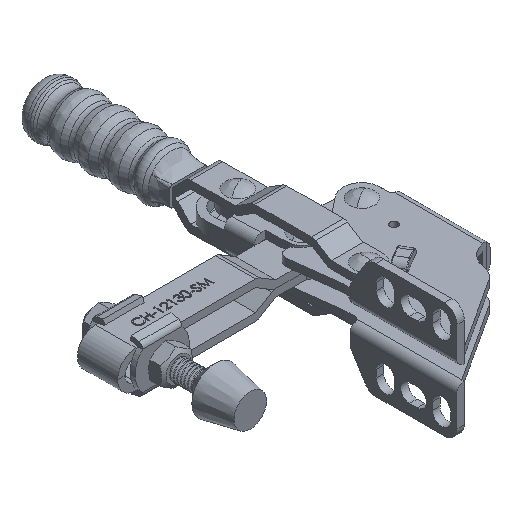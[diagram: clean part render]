
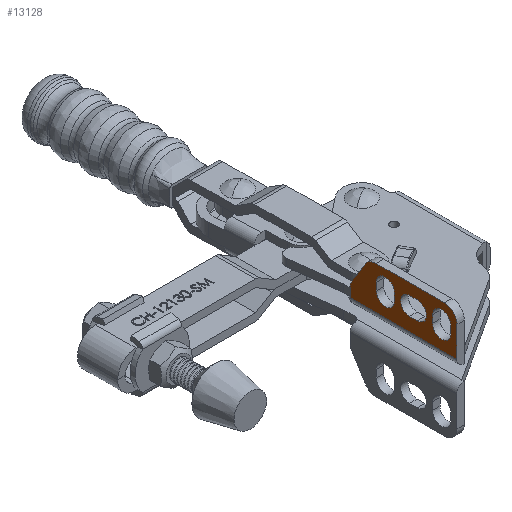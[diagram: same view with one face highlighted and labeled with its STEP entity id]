
A CAD part, isometric view. The second image highlights one B-rep face of the part: STEP entity #13128.
In plain terms, the highlighted planar face has unit normal (-1, 0, 0).
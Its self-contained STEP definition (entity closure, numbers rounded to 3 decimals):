
#910=FACE_BOUND('',#2123,.T.);
#911=FACE_BOUND('',#2124,.T.);
#912=FACE_BOUND('',#2125,.T.);
#1020=PLANE('',#14204);
#1373=FACE_OUTER_BOUND('',#2122,.T.);
#2122=EDGE_LOOP('',(#9324,#9325,#9326,#9327,#9328,#9329,#9330,#9331));
#2123=EDGE_LOOP('',(#9332,#9333,#9334,#9335));
#2124=EDGE_LOOP('',(#9336,#9337,#9338,#9339));
#2125=EDGE_LOOP('',(#9340,#9341,#9342,#9343));
#2986=LINE('',#18535,#4106);
#3019=LINE('',#18623,#4139);
#3021=LINE('',#18626,#4141);
#3022=LINE('',#18630,#4142);
#3023=LINE('',#18634,#4143);
#3024=LINE('',#18638,#4144);
#3025=LINE('',#18642,#4145);
#3026=LINE('',#18645,#4146);
#3027=LINE('',#18648,#4147);
#3028=LINE('',#18650,#4148);
#3029=LINE('',#18652,#4149);
#4106=VECTOR('',#15439,1000.);
#4139=VECTOR('',#15520,1000.);
#4141=VECTOR('',#15524,1000.);
#4142=VECTOR('',#15527,1000.);
#4143=VECTOR('',#15530,1000.);
#4144=VECTOR('',#15533,1000.);
#4145=VECTOR('',#15536,1000.);
#4146=VECTOR('',#15539,1000.);
#4147=VECTOR('',#15542,1000.);
#4148=VECTOR('',#15543,1000.);
#4149=VECTOR('',#15544,1000.);
#5113=CIRCLE('',#14093,3.6);
#5115=CIRCLE('',#14096,3.6);
#5187=CIRCLE('',#14205,5.);
#5188=CIRCLE('',#14206,5.);
#5189=CIRCLE('',#14207,5.);
#5190=CIRCLE('',#14208,3.6);
#5191=CIRCLE('',#14209,3.6);
#5192=CIRCLE('',#14210,3.6);
#5193=CIRCLE('',#14211,3.6);
#5541=VERTEX_POINT('',#18224);
#5542=VERTEX_POINT('',#18226);
#5545=VERTEX_POINT('',#18233);
#5546=VERTEX_POINT('',#18235);
#5662=VERTEX_POINT('',#18533);
#5663=VERTEX_POINT('',#18534);
#5693=VERTEX_POINT('',#18620);
#5694=VERTEX_POINT('',#18622);
#5695=VERTEX_POINT('',#18627);
#5696=VERTEX_POINT('',#18629);
#5697=VERTEX_POINT('',#18631);
#5698=VERTEX_POINT('',#18633);
#5699=VERTEX_POINT('',#18636);
#5700=VERTEX_POINT('',#18637);
#5701=VERTEX_POINT('',#18639);
#5702=VERTEX_POINT('',#18641);
#5703=VERTEX_POINT('',#18644);
#5704=VERTEX_POINT('',#18646);
#5705=VERTEX_POINT('',#18649);
#5706=VERTEX_POINT('',#18651);
#6934=EDGE_CURVE('',#5541,#5542,#5113,.T.);
#6938=EDGE_CURVE('',#5545,#5546,#5115,.T.);
#7083=EDGE_CURVE('',#5662,#5663,#2986,.T.);
#7129=EDGE_CURVE('',#5694,#5693,#3019,.T.);
#7131=EDGE_CURVE('',#5693,#5663,#3021,.T.);
#7132=EDGE_CURVE('',#5662,#5695,#5187,.T.);
#7133=EDGE_CURVE('',#5696,#5695,#3022,.T.);
#7134=EDGE_CURVE('',#5696,#5697,#5188,.T.);
#7135=EDGE_CURVE('',#5698,#5697,#3023,.T.);
#7136=EDGE_CURVE('',#5698,#5694,#5189,.T.);
#7137=EDGE_CURVE('',#5699,#5700,#3024,.T.);
#7138=EDGE_CURVE('',#5701,#5699,#5190,.T.);
#7139=EDGE_CURVE('',#5702,#5701,#3025,.T.);
#7140=EDGE_CURVE('',#5700,#5702,#5191,.T.);
#7141=EDGE_CURVE('',#5703,#5541,#3026,.T.);
#7142=EDGE_CURVE('',#5704,#5703,#5192,.T.);
#7143=EDGE_CURVE('',#5542,#5704,#3027,.T.);
#7144=EDGE_CURVE('',#5546,#5705,#3028,.T.);
#7145=EDGE_CURVE('',#5706,#5545,#3029,.T.);
#7146=EDGE_CURVE('',#5705,#5706,#5193,.T.);
#9324=ORIENTED_EDGE('',*,*,#7129,.T.);
#9325=ORIENTED_EDGE('',*,*,#7131,.T.);
#9326=ORIENTED_EDGE('',*,*,#7083,.F.);
#9327=ORIENTED_EDGE('',*,*,#7132,.T.);
#9328=ORIENTED_EDGE('',*,*,#7133,.F.);
#9329=ORIENTED_EDGE('',*,*,#7134,.T.);
#9330=ORIENTED_EDGE('',*,*,#7135,.F.);
#9331=ORIENTED_EDGE('',*,*,#7136,.T.);
#9332=ORIENTED_EDGE('',*,*,#7137,.F.);
#9333=ORIENTED_EDGE('',*,*,#7138,.F.);
#9334=ORIENTED_EDGE('',*,*,#7139,.F.);
#9335=ORIENTED_EDGE('',*,*,#7140,.F.);
#9336=ORIENTED_EDGE('',*,*,#7141,.F.);
#9337=ORIENTED_EDGE('',*,*,#7142,.F.);
#9338=ORIENTED_EDGE('',*,*,#7143,.F.);
#9339=ORIENTED_EDGE('',*,*,#6934,.F.);
#9340=ORIENTED_EDGE('',*,*,#7144,.F.);
#9341=ORIENTED_EDGE('',*,*,#6938,.F.);
#9342=ORIENTED_EDGE('',*,*,#7145,.F.);
#9343=ORIENTED_EDGE('',*,*,#7146,.F.);
#13128=ADVANCED_FACE('',(#1373,#910,#911,#912),#1020,.F.);
#14093=AXIS2_PLACEMENT_3D('',#18227,#15181,#15182);
#14096=AXIS2_PLACEMENT_3D('',#18236,#15189,#15190);
#14204=AXIS2_PLACEMENT_3D('',#18625,#15522,#15523);
#14205=AXIS2_PLACEMENT_3D('',#18628,#15525,#15526);
#14206=AXIS2_PLACEMENT_3D('',#18632,#15528,#15529);
#14207=AXIS2_PLACEMENT_3D('',#18635,#15531,#15532);
#14208=AXIS2_PLACEMENT_3D('',#18640,#15534,#15535);
#14209=AXIS2_PLACEMENT_3D('',#18643,#15537,#15538);
#14210=AXIS2_PLACEMENT_3D('',#18647,#15540,#15541);
#14211=AXIS2_PLACEMENT_3D('',#18653,#15545,#15546);
#15181=DIRECTION('center_axis',(-1.,0.,0.));
#15182=DIRECTION('ref_axis',(0.,0.,-1.));
#15189=DIRECTION('center_axis',(-1.,0.,0.));
#15190=DIRECTION('ref_axis',(0.,0.,1.));
#15439=DIRECTION('',(0.,0.,-1.));
#15520=DIRECTION('',(0.,0.,-1.));
#15522=DIRECTION('center_axis',(1.,0.,0.));
#15523=DIRECTION('ref_axis',(0.,0.,-1.));
#15524=DIRECTION('',(0.,-1.,0.));
#15525=DIRECTION('center_axis',(-1.,0.,0.));
#15526=DIRECTION('ref_axis',(0.,0.,-1.));
#15527=DIRECTION('',(0.,-1.,0.));
#15528=DIRECTION('center_axis',(-1.,0.,0.));
#15529=DIRECTION('ref_axis',(0.,0.,-1.));
#15530=DIRECTION('',(0.,-0.53,0.848));
#15531=DIRECTION('center_axis',(-1.,0.,0.));
#15532=DIRECTION('ref_axis',(0.,0.,-1.));
#15533=DIRECTION('',(0.,1.,0.));
#15534=DIRECTION('center_axis',(-1.,0.,0.));
#15535=DIRECTION('ref_axis',(0.,0.,1.));
#15536=DIRECTION('',(0.,-1.,0.));
#15537=DIRECTION('center_axis',(-1.,0.,0.));
#15538=DIRECTION('ref_axis',(0.,0.,1.));
#15539=DIRECTION('',(0.,0.,1.));
#15540=DIRECTION('center_axis',(-1.,0.,0.));
#15541=DIRECTION('ref_axis',(0.,0.,-1.));
#15542=DIRECTION('',(0.,0.,-1.));
#15543=DIRECTION('',(0.,0.,-1.));
#15544=DIRECTION('',(0.,0.,1.));
#15545=DIRECTION('center_axis',(-1.,0.,0.));
#15546=DIRECTION('ref_axis',(0.,0.,1.));
#18224=CARTESIAN_POINT('',(-3.,24.9,22.5));
#18226=CARTESIAN_POINT('',(-3.,32.1,22.5));
#18227=CARTESIAN_POINT('Origin',(-3.,28.5,22.5));
#18233=CARTESIAN_POINT('',(-3.,2.5,22.5));
#18235=CARTESIAN_POINT('',(-3.,9.7,22.5));
#18236=CARTESIAN_POINT('Origin',(-3.,6.1,22.5));
#18533=CARTESIAN_POINT('',(-3.,0.,24.));
#18534=CARTESIAN_POINT('',(-3.,0.,12.));
#18535=CARTESIAN_POINT('',(-3.,0.,12.));
#18620=CARTESIAN_POINT('',(-3.,42.5,12.));
#18622=CARTESIAN_POINT('',(-3.,42.5,15.566));
#18623=CARTESIAN_POINT('',(-3.,42.5,12.));
#18625=CARTESIAN_POINT('Origin',(-3.,0.,12.));
#18626=CARTESIAN_POINT('',(-3.,0.,12.));
#18627=CARTESIAN_POINT('',(-3.,5.,29.));
#18628=CARTESIAN_POINT('Origin',(-3.,5.,24.));
#18629=CARTESIAN_POINT('',(-3.,32.229,29.));
#18630=CARTESIAN_POINT('',(-3.,42.5,29.));
#18631=CARTESIAN_POINT('',(-3.,36.469,26.65));
#18632=CARTESIAN_POINT('Origin',(-3.,32.229,24.));
#18633=CARTESIAN_POINT('',(-3.,41.74,18.216));
#18634=CARTESIAN_POINT('',(-3.,42.5,17.));
#18635=CARTESIAN_POINT('Origin',(-3.,37.5,15.566));
#18636=CARTESIAN_POINT('',(-3.,15.8,24.6));
#18637=CARTESIAN_POINT('',(-3.,18.8,24.6));
#18638=CARTESIAN_POINT('',(-3.,15.8,24.6));
#18639=CARTESIAN_POINT('',(-3.,15.8,17.4));
#18640=CARTESIAN_POINT('Origin',(-3.,15.8,21.));
#18641=CARTESIAN_POINT('',(-3.,18.8,17.4));
#18642=CARTESIAN_POINT('',(-3.,15.8,17.4));
#18643=CARTESIAN_POINT('Origin',(-3.,18.8,21.));
#18644=CARTESIAN_POINT('',(-3.,24.9,19.5));
#18645=CARTESIAN_POINT('',(-3.,24.9,22.5));
#18646=CARTESIAN_POINT('',(-3.,32.1,19.5));
#18647=CARTESIAN_POINT('Origin',(-3.,28.5,19.5));
#18648=CARTESIAN_POINT('',(-3.,32.1,19.5));
#18649=CARTESIAN_POINT('',(-3.,9.7,19.5));
#18650=CARTESIAN_POINT('',(-3.,9.7,22.5));
#18651=CARTESIAN_POINT('',(-3.,2.5,19.5));
#18652=CARTESIAN_POINT('',(-3.,2.5,19.5));
#18653=CARTESIAN_POINT('Origin',(-3.,6.1,19.5));
